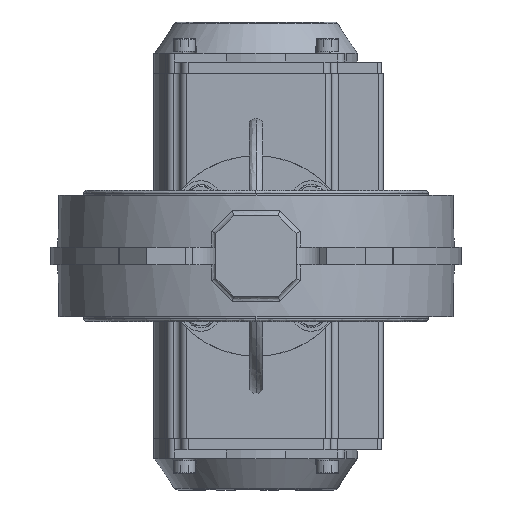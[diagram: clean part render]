
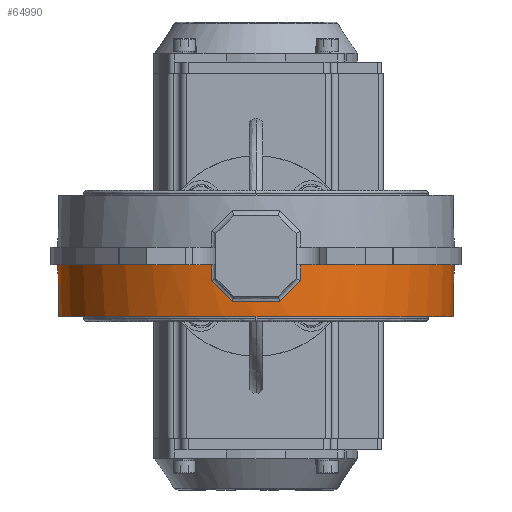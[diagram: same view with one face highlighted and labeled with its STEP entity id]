
A CAD part, front view. The second image highlights one B-rep face of the part: STEP entity #64990.
In plain terms, the highlighted conical face has half-angle 1.029 degrees and reference radius 88.989 mm.
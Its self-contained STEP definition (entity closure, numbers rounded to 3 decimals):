
#52 = DIRECTION ( 'NONE',  ( -1., 0., 0. ) ) ;
#397 = EDGE_CURVE ( 'NONE', #37873, #3016, #846, .T. ) ;
#846 = B_SPLINE_CURVE_WITH_KNOTS ( 'NONE', 3,
 ( #46797, #66916, #62356, #13747 ),
 .UNSPECIFIED., .F., .F.,
 ( 4, 4 ),
 ( 0., 1. ),
 .UNSPECIFIED. ) ;
#1946 = VERTEX_POINT ( 'NONE', #32572 ) ;
#2732 = CARTESIAN_POINT ( 'NONE',  ( 19.939, -86.652, -4. ) ) ;
#2789 = CARTESIAN_POINT ( 'NONE',  ( -46.578, -75.741, -4. ) ) ;
#2836 = CARTESIAN_POINT ( 'NONE',  ( 19.939, -86.566, -8.66 ) ) ;
#2957 = VERTEX_POINT ( 'NONE', #67656 ) ;
#3016 = VERTEX_POINT ( 'NONE', #63766 ) ;
#3422 = CARTESIAN_POINT ( 'NONE',  ( 10.733, -87.969, -20.455 ) ) ;
#3885 = CARTESIAN_POINT ( 'NONE',  ( 19.939, -86.609, -6.33 ) ) ;
#4867 = VERTEX_POINT ( 'NONE', #13173 ) ;
#5361 = CARTESIAN_POINT ( 'NONE',  ( 88.917, 0., -4. ) ) ;
#5449 = CARTESIAN_POINT ( 'NONE',  ( -19.939, -86.652, -4. ) ) ;
#8218 = CARTESIAN_POINT ( 'NONE',  ( 10.733, -87.969, -20.455 ) ) ;
#8904 = ORIENTED_EDGE ( 'NONE', *, *, #47999, .T. ) ;
#9079 = CARTESIAN_POINT ( 'NONE',  ( -88.917, 0., -4. ) ) ;
#11366 = CIRCLE ( 'NONE', #50745, 88.917 ) ;
#12316 = CARTESIAN_POINT ( 'NONE',  ( -19.939, -86.524, -10.991 ) ) ;
#12414 = CARTESIAN_POINT ( 'NONE',  ( -88.989, 0., 0. ) ) ;
#12463 = ORIENTED_EDGE ( 'NONE', *, *, #41962, .T. ) ;
#12860 = DIRECTION ( 'NONE',  ( -1., 0., 0. ) ) ;
#13173 = CARTESIAN_POINT ( 'NONE',  ( 46.578, -75.741, -4. ) ) ;
#13254 = EDGE_LOOP ( 'NONE', ( #39098, #54404, #12463, #42901, #8904, #33795, #34073, #66149, #44136, #26212, #58476, #56251 ) ) ;
#13747 = CARTESIAN_POINT ( 'NONE',  ( -10.733, -87.969, -20.455 ) ) ;
#15458 = CARTESIAN_POINT ( 'NONE',  ( -19.939, -86.524, -10.991 ) ) ;
#15668 = B_SPLINE_CURVE_WITH_KNOTS ( 'NONE', 3,
 ( #5449, #59341, #32590, #30963, #25003, #2789 ),
 .UNSPECIFIED., .F., .F.,
 ( 4, 2, 4 ),
 ( 0., 0.5, 1. ),
 .UNSPECIFIED. ) ;
#16172 = EDGE_CURVE ( 'NONE', #1946, #37873, #49497, .T. ) ;
#16226 = DIRECTION ( 'NONE',  ( 0.018, 0., 1. ) ) ;
#16626 = EDGE_CURVE ( 'NONE', #33608, #46852, #64483, .T. ) ;
#17471 = CARTESIAN_POINT ( 'NONE',  ( 19.939, -86.524, -10.991 ) ) ;
#18682 = CARTESIAN_POINT ( 'NONE',  ( -19.939, -86.652, -4. ) ) ;
#19269 = DIRECTION ( 'NONE',  ( 0., 0., -1. ) ) ;
#20803 = CARTESIAN_POINT ( 'NONE',  ( -19.939, -86.524, -10.991 ) ) ;
#23159 = EDGE_CURVE ( 'NONE', #59233, #2957, #15668, .T. ) ;
#23280 = CARTESIAN_POINT ( 'NONE',  ( -19.939, -86.609, -6.33 ) ) ;
#23822 = CARTESIAN_POINT ( 'NONE',  ( 0., 0., 0. ) ) ;
#23832 = CONICAL_SURFACE ( 'NONE', #58682, 88.989, 0.018 ) ;
#23904 = EDGE_CURVE ( 'NONE', #30784, #59233, #29123, .T. ) ;
#24677 = CARTESIAN_POINT ( 'NONE',  ( -10.733, -87.969, -20.455 ) ) ;
#25003 = CARTESIAN_POINT ( 'NONE',  ( -42.473, -78.265, -4. ) ) ;
#25371 = AXIS2_PLACEMENT_3D ( 'NONE', #49429, #37149, #53674 ) ;
#25467 = CARTESIAN_POINT ( 'NONE',  ( 19.939, -86.652, -4. ) ) ;
#26212 = ORIENTED_EDGE ( 'NONE', *, *, #23159, .T. ) ;
#27710 = B_SPLINE_CURVE_WITH_KNOTS ( 'NONE', 3,
 ( #34785, #38423, #38772, #65531, #50963, #2732 ),
 .UNSPECIFIED., .F., .F.,
 ( 4, 2, 4 ),
 ( 0., 0.5, 1. ),
 .UNSPECIFIED. ) ;
#28519 = CARTESIAN_POINT ( 'NONE',  ( -19.939, -86.652, -4. ) ) ;
#28582 = CARTESIAN_POINT ( 'NONE',  ( -19.939, -86.566, -8.66 ) ) ;
#29123 = B_SPLINE_CURVE_WITH_KNOTS ( 'NONE', 3,
 ( #12316, #28582, #23280, #18682 ),
 .UNSPECIFIED., .F., .F.,
 ( 4, 4 ),
 ( 0., 1. ),
 .UNSPECIFIED. ) ;
#29478 = CARTESIAN_POINT ( 'NONE',  ( 0., 0., -4. ) ) ;
#30784 = VERTEX_POINT ( 'NONE', #20803 ) ;
#30963 = CARTESIAN_POINT ( 'NONE',  ( -38.163, -80.455, -4. ) ) ;
#32107 = CARTESIAN_POINT ( 'NONE',  ( 0., 0., -27.2 ) ) ;
#32238 = B_SPLINE_CURVE_WITH_KNOTS ( 'NONE', 3,
 ( #24677, #67630, #52430, #15458 ),
 .UNSPECIFIED., .F., .F.,
 ( 4, 4 ),
 ( 0., 1. ),
 .UNSPECIFIED. ) ;
#32572 = CARTESIAN_POINT ( 'NONE',  ( 19.939, -86.524, -10.991 ) ) ;
#32590 = CARTESIAN_POINT ( 'NONE',  ( -29.244, -84.108, -4. ) ) ;
#33604 = EDGE_CURVE ( 'NONE', #38142, #33608, #64798, .T. ) ;
#33608 = VERTEX_POINT ( 'NONE', #48627 ) ;
#33795 = ORIENTED_EDGE ( 'NONE', *, *, #16172, .T. ) ;
#33905 = DIRECTION ( 'NONE',  ( -0.018, 0., 1. ) ) ;
#34073 = ORIENTED_EDGE ( 'NONE', *, *, #397, .T. ) ;
#34785 = CARTESIAN_POINT ( 'NONE',  ( 46.578, -75.741, -4. ) ) ;
#35949 = CARTESIAN_POINT ( 'NONE',  ( 19.939, -86.652, -4. ) ) ;
#36300 = CARTESIAN_POINT ( 'NONE',  ( 19.939, -86.524, -10.991 ) ) ;
#37149 = DIRECTION ( 'NONE',  ( 0., 0., -1. ) ) ;
#37730 = CIRCLE ( 'NONE', #25371, 88.917 ) ;
#37873 = VERTEX_POINT ( 'NONE', #3422 ) ;
#38142 = VERTEX_POINT ( 'NONE', #59412 ) ;
#38423 = CARTESIAN_POINT ( 'NONE',  ( 42.473, -78.265, -4. ) ) ;
#38772 = CARTESIAN_POINT ( 'NONE',  ( 38.163, -80.455, -4. ) ) ;
#39098 = ORIENTED_EDGE ( 'NONE', *, *, #33604, .T. ) ;
#39752 = EDGE_CURVE ( 'NONE', #3016, #30784, #32238, .T. ) ;
#41331 = VECTOR ( 'NONE', #16226, 1000. ) ;
#41962 = EDGE_CURVE ( 'NONE', #46852, #4867, #37730, .T. ) ;
#42901 = ORIENTED_EDGE ( 'NONE', *, *, #43643, .T. ) ;
#43292 = EDGE_CURVE ( 'NONE', #38142, #51832, #55053, .T. ) ;
#43343 = DIRECTION ( 'NONE',  ( 0., 0., 1. ) ) ;
#43567 = VERTEX_POINT ( 'NONE', #25467 ) ;
#43643 = EDGE_CURVE ( 'NONE', #4867, #43567, #27710, .T. ) ;
#44136 = ORIENTED_EDGE ( 'NONE', *, *, #23904, .T. ) ;
#45230 = CARTESIAN_POINT ( 'NONE',  ( 17.159, -87.111, -13.866 ) ) ;
#46797 = CARTESIAN_POINT ( 'NONE',  ( 10.733, -87.969, -20.455 ) ) ;
#46852 = VERTEX_POINT ( 'NONE', #5361 ) ;
#47999 = EDGE_CURVE ( 'NONE', #43567, #1946, #65161, .T. ) ;
#48627 = CARTESIAN_POINT ( 'NONE',  ( 88.5, 0., -27.2 ) ) ;
#49429 = CARTESIAN_POINT ( 'NONE',  ( 0., 0., -4. ) ) ;
#49497 = B_SPLINE_CURVE_WITH_KNOTS ( 'NONE', 3,
 ( #17471, #45230, #66025, #8218 ),
 .UNSPECIFIED., .F., .F.,
 ( 4, 4 ),
 ( 0., 1. ),
 .UNSPECIFIED. ) ;
#50745 = AXIS2_PLACEMENT_3D ( 'NONE', #29478, #19269, #62218 ) ;
#50963 = CARTESIAN_POINT ( 'NONE',  ( 24.636, -85.572, -4. ) ) ;
#51832 = VERTEX_POINT ( 'NONE', #9079 ) ;
#52430 = CARTESIAN_POINT ( 'NONE',  ( -17.212, -87.1, -13.81 ) ) ;
#53674 = DIRECTION ( 'NONE',  ( -1., 0., 0. ) ) ;
#54041 = EDGE_CURVE ( 'NONE', #2957, #51832, #11366, .T. ) ;
#54404 = ORIENTED_EDGE ( 'NONE', *, *, #16626, .T. ) ;
#55053 = LINE ( 'NONE', #12414, #64905 ) ;
#56251 = ORIENTED_EDGE ( 'NONE', *, *, #43292, .F. ) ;
#56527 = DIRECTION ( 'NONE',  ( 0., 0., 1. ) ) ;
#58476 = ORIENTED_EDGE ( 'NONE', *, *, #54041, .T. ) ;
#58682 = AXIS2_PLACEMENT_3D ( 'NONE', #23822, #56527, #12860 ) ;
#59233 = VERTEX_POINT ( 'NONE', #28519 ) ;
#59341 = CARTESIAN_POINT ( 'NONE',  ( -24.636, -85.572, -4. ) ) ;
#59412 = CARTESIAN_POINT ( 'NONE',  ( -88.5, 0., -27.2 ) ) ;
#62218 = DIRECTION ( 'NONE',  ( -1., 0., 0. ) ) ;
#62356 = CARTESIAN_POINT ( 'NONE',  ( -3.613, -88.838, -20.455 ) ) ;
#62602 = AXIS2_PLACEMENT_3D ( 'NONE', #32107, #43343, #52 ) ;
#63766 = CARTESIAN_POINT ( 'NONE',  ( -10.733, -87.969, -20.455 ) ) ;
#64483 = LINE ( 'NONE', #69054, #41331 ) ;
#64798 = CIRCLE ( 'NONE', #62602, 88.5 ) ;
#64905 = VECTOR ( 'NONE', #33905, 1000. ) ;
#64990 = ADVANCED_FACE ( 'NONE', ( #69272 ), #23832, .T. ) ;
#65161 = B_SPLINE_CURVE_WITH_KNOTS ( 'NONE', 3,
 ( #35949, #3885, #2836, #36300 ),
 .UNSPECIFIED., .F., .F.,
 ( 4, 4 ),
 ( 0., 1. ),
 .UNSPECIFIED. ) ;
#65531 = CARTESIAN_POINT ( 'NONE',  ( 29.244, -84.108, -4. ) ) ;
#66025 = CARTESIAN_POINT ( 'NONE',  ( 14.088, -87.622, -17.021 ) ) ;
#66149 = ORIENTED_EDGE ( 'NONE', *, *, #39752, .T. ) ;
#66916 = CARTESIAN_POINT ( 'NONE',  ( 3.613, -88.838, -20.455 ) ) ;
#67630 = CARTESIAN_POINT ( 'NONE',  ( -14.143, -87.616, -16.965 ) ) ;
#67656 = CARTESIAN_POINT ( 'NONE',  ( -46.578, -75.741, -4. ) ) ;
#69054 = CARTESIAN_POINT ( 'NONE',  ( 88.989, 0., 0. ) ) ;
#69272 = FACE_OUTER_BOUND ( 'NONE', #13254, .T. ) ;
